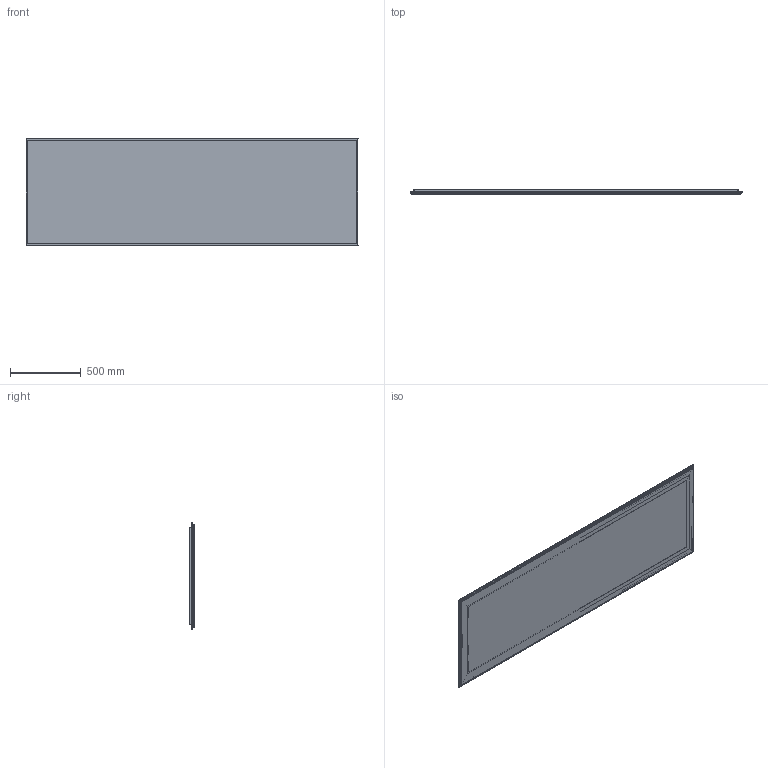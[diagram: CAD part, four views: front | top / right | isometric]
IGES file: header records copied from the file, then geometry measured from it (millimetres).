
Start section: Data from Parasolid IGES Translator 22.0.50, Copyright(c) 2006 Siemens P LM Software. All Rights Reserved.
Global section: file name: noorth-mirror-H 75 D 3,3 W 234_5217.igs; native system: By Siemens PLM Incorporated; preprocessor: XPlus GENERIC/IGES 22.0.50; author: Noname; organization: Noname; date: 20250803.155933; units: metre
Bounding box: 2340 x 33.75 x 749.78 mm (x, y, z)
Volume: 8694460.9 mm3; surface area: 5408747.9 mm2
Topology: 5 solids, 5 shells, 398 faces, 1140 edges, 752 vertices
Faces by surface type: plane 266, cylinder 62, extrusion 62, bspline 8
